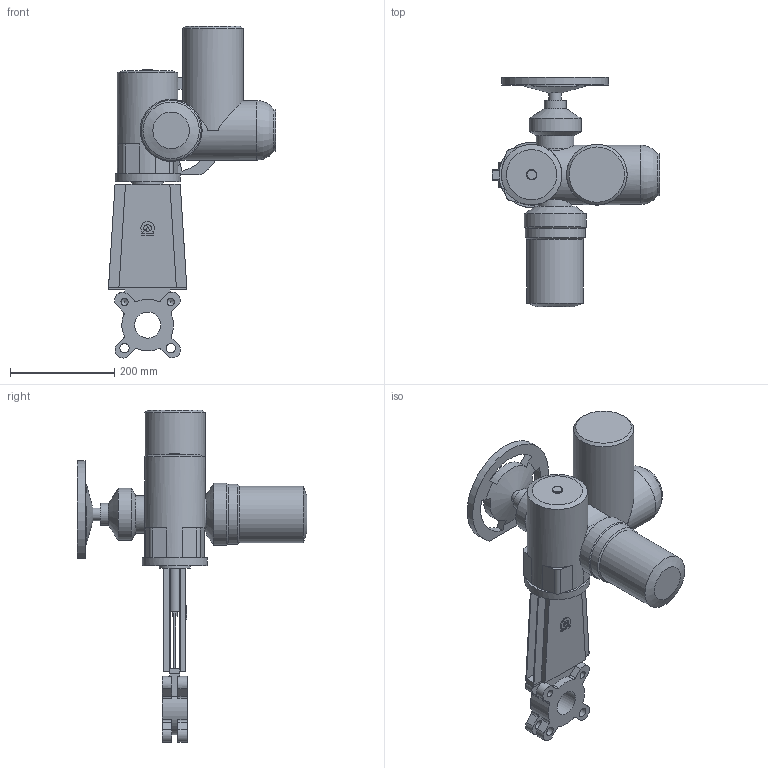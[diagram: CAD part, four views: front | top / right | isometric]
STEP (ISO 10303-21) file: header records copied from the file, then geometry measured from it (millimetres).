
FILE_DESCRIPTION(('STEP AP203'), '1');
FILE_NAME('K21GVA_DN50+MT903.A 07', '', ('UNSPECIFIED'), ('UNSPECIFIED'), 'ASCON STEP Converter 1.6', 'ASCON Math Kernel', '');
FILE_SCHEMA(('CONFIG_CONTROL_DESIGN'));
Length unit declared in the file: millimetre
Bounding box: 320 x 440 x 636.12 mm (x, y, z)
Volume: 9157246.8 mm3; surface area: 621611.1 mm2
Topology: 1 solids, 1 shells, 244 faces, 656 edges, 421 vertices
Faces by surface type: plane 147, cylinder 82, cone 14, torus 1
Full cylindrical faces by diameter (mm): 8.5 x4, 12 x4, 13.835 x4, 18 x4, 20 x2, 24 x1, 42 x1, 50 x1, 60 x1, 66 x1, 72 x1, 80 x1, 100 x1, 108 x1, 114 x1, 115 x1, 116 x2, 119 x1, 125 x1
Entity records: 10450 total; most frequent: CARTESIAN_POINT 2402, DIRECTION 1276, ORIENTED_EDGE 1206, EDGE_CURVE 603, AXIS2_PLACEMENT_3D 455, VERTEX_POINT 417, LINE 366, VECTOR 366
